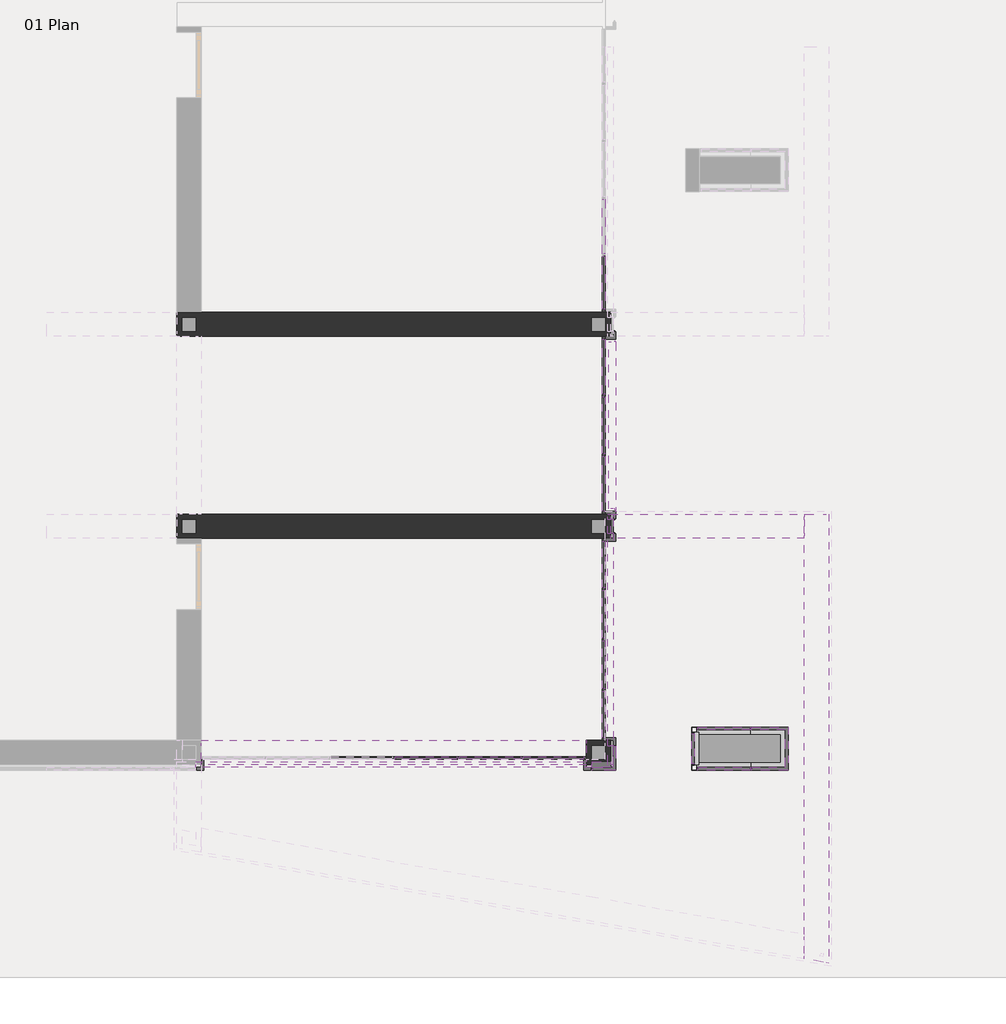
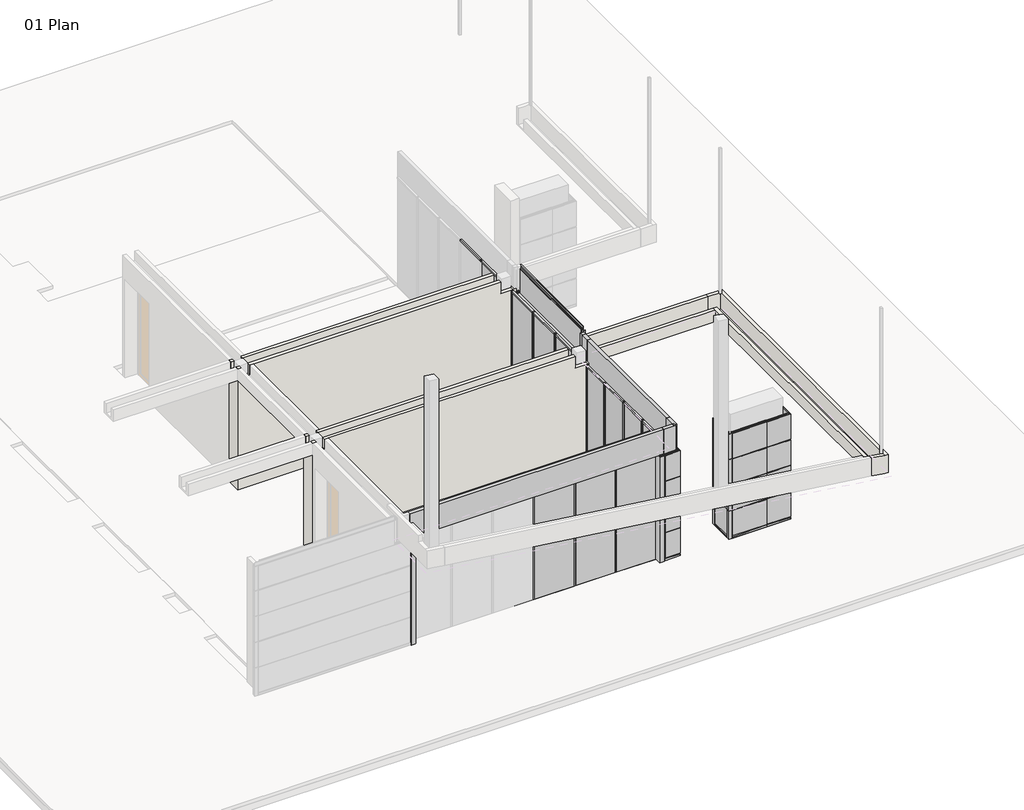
# One storey, part 2 of 5: 48 plates, 38 members, 6 walls.
"""IFC4 building model written with IfcOpenShell, lengths in millimetres."""

from ifc_helpers import new_model, si_unit, frame, origin, place, context, project, spatial, polyline, outline, extrude, faceted_brep, transform, mapped, element, save
from components import rectangular_mullion_f9ce9dc6, rectangular_mullion_d86abf8a, rectangular_mullion_e8d65c67, rectangular_mullion_c5e4a414, rectangular_mullion_c3e8b248, rectangular_mullion_bb8d6ff1, rectangular_mullion_e95caec2, rectangular_mullion_6a6b7c83, rectangular_mullion_8c2ecb36, rectangular_mullion_b7052393, rectangular_mullion_f1e0426e, rectangular_mullion_08edc9b5, rectangular_mullion_7d0be01b, rectangular_mullion_a8c58242, rectangular_mullion_3236e8af, rectangular_mullion_265d4001, rectangular_mullion_ccc8bb2c, plate_da8b7aa8, plate_97dfdc25, plate_eb0d2815, plate_6bd1128d, plate_987dd367, plate_21cbcbb2, plate_a826c487, plate_c5b51b30, plate_53742d8a, plate_d492e9c1, plate_1e91bede, plate_ff55eab8, plate_0f2c33d4, plate_e64e6de2, empty_system_panel_empty_786b6551, empty_system_panel_empty_7f93cfdc, empty_system_panel_empty_0363bcf5, empty_system_panel_empty_f8626ec1, empty_system_panel_empty_d218ae45, empty_system_panel_empty_38a7915e, empty_system_panel_empty_4003d573, empty_system_panel_empty_63036f14, system_panel_6dfe1f31, system_panel_c846f28c, system_panel_06a197ed, system_panel_921365fd, system_panel_770c4b70, system_panel_3dbd57ef, system_panel_7ee325bc

model = new_model("IFC4")

# Units and contexts
model_context = context("Model", 3, world=origin())
ifc_project = project(units=[si_unit("LENGTHUNIT", "METRE", prefix="MILLI")], contexts=[model_context])

# Site, building, storey
site = spatial("IfcSite", under=ifc_project)
building = spatial("IfcBuilding", under=site)
storey = spatial("IfcBuildingStorey", under=building, Name="01 Plan", Elevation=-4000.0)

# Members
placement = place(None, origin())
rectangular_mullion_shape = rectangular_mullion_f9ce9dc6(model_context)
element("IfcMember", 1, ObjectType="Rectangular Mullion : Mullion_Curtain Wall_Generic Showcase_50x50mm", at=placement, inside=storey, context=model_context, shape_type="MappedRepresentation", body=[
    mapped(rectangular_mullion_shape, transform((3950.6615063, -5279.4104565, -650.0), x_axis=(0.0, 0.0, 1.0), y_axis=(-1.0, 0.0, 0.0), z_axis=(0.0, -1.0, 0.0))),
])
rectangular_mullion_2_shape = rectangular_mullion_d86abf8a(model_context)
element("IfcMember", 2, ObjectType="Rectangular Mullion : Mullion_Curtain Wall_Generic Showcase_50x50mm", at=placement, inside=storey, context=model_context, shape_type="MappedRepresentation", body=[
    mapped(rectangular_mullion_2_shape, transform((3950.6615063, -1569.4104565, -650.0), x_axis=(0.0, 0.0, 1.0), y_axis=(-1.0, 0.0, 0.0), z_axis=(0.0, -1.0, 0.0))),
])
rectangular_mullion_3_shape = rectangular_mullion_e8d65c67(model_context)
element("IfcMember", 3, ObjectType="Rectangular Mullion : Mullion_Curtain Wall_Generic Showcase_50x50mm", at=placement, inside=storey, context=model_context, shape_type="MappedRepresentation", body=[
    mapped(rectangular_mullion_3_shape, transform((3950.6615063, -10604.4104565, -4100.0), x_axis=(0.0, -1.0, 0.0), y_axis=(-1.0, 0.0, 0.0), z_axis=(0.0, 0.0, -1.0))),
])
element("IfcMember", 4, ObjectType="Rectangular Mullion : Mullion_Curtain Wall_Generic Showcase_50x50mm", at=placement, inside=storey, context=model_context, shape_type="MappedRepresentation", body=[
    mapped(rectangular_mullion_3_shape, transform((3950.6615063, -6404.4104565, -4100.0), x_axis=(0.0, -1.0, 0.0), y_axis=(-1.0, 0.0, 0.0), z_axis=(0.0, 0.0, -1.0))),
])
element("IfcMember", 5, ObjectType="Rectangular Mullion : Mullion_Curtain Wall_Generic Showcase_50x50mm", at=placement, inside=storey, context=model_context, shape_type="MappedRepresentation", body=[
    mapped(rectangular_mullion_3_shape, transform((3950.6615063, -2654.4104565, -4100.0), x_axis=(0.0, -1.0, 0.0), y_axis=(-1.0, 0.0, 0.0), z_axis=(0.0, 0.0, -1.0))),
])
element("IfcMember", 6, ObjectType="Rectangular Mullion : Mullion_Curtain Wall_Generic Showcase_50x50mm", at=placement, inside=storey, context=model_context, shape_type="MappedRepresentation", body=[
    mapped(rectangular_mullion_3_shape, transform((3600.6615063, -10954.4104565, -650.0), x_axis=(1.0, 0.0, 0.0), y_axis=(0.0, 1.0, 0.0), z_axis=(0.0, 0.0, 1.0))),
])
element("IfcMember", 7, ObjectType="Rectangular Mullion : Mullion_Curtain Wall_Generic Showcase_50x50mm", at=placement, inside=storey, context=model_context, shape_type="MappedRepresentation", body=[
    mapped(rectangular_mullion_3_shape, transform((3950.6615063, -6854.4104565, -650.0), x_axis=(0.0, 1.0, 0.0), y_axis=(-1.0, 0.0, 0.0), z_axis=(0.0, 0.0, 1.0))),
])
element("IfcMember", 8, ObjectType="Rectangular Mullion : Mullion_Curtain Wall_Generic Showcase_50x50mm", at=placement, inside=storey, context=model_context, shape_type="MappedRepresentation", body=[
    mapped(rectangular_mullion_3_shape, transform((3950.6615063, -3104.4104565, -650.0), x_axis=(0.0, 1.0, 0.0), y_axis=(-1.0, 0.0, 0.0), z_axis=(0.0, 0.0, 1.0))),
])
rectangular_mullion_4_shape = rectangular_mullion_c5e4a414(model_context)
element("IfcMember", 9, ObjectType="Rectangular Mullion : Mullion_Curtain Wall_Generic Showcase_50x50mm", at=placement, inside=storey, context=model_context, shape_type="MappedRepresentation", body=[
    mapped(rectangular_mullion_4_shape, transform((3950.6615063, -7791.9104565, -4100.0), x_axis=(0.0, -1.0, 0.0), y_axis=(-1.0, 0.0, 0.0), z_axis=(0.0, 0.0, -1.0))),
])
element("IfcMember", 10, ObjectType="Rectangular Mullion : Mullion_Curtain Wall_Generic Showcase_50x50mm", at=placement, inside=storey, context=model_context, shape_type="MappedRepresentation", body=[
    mapped(rectangular_mullion_4_shape, transform((3950.6615063, -8729.4104565, -4100.0), x_axis=(0.0, -1.0, 0.0), y_axis=(-1.0, 0.0, 0.0), z_axis=(0.0, 0.0, -1.0))),
])
element("IfcMember", 11, ObjectType="Rectangular Mullion : Mullion_Curtain Wall_Generic Showcase_50x50mm", at=placement, inside=storey, context=model_context, shape_type="MappedRepresentation", body=[
    mapped(rectangular_mullion_4_shape, transform((3950.6615063, -9666.9104565, -4100.0), x_axis=(0.0, -1.0, 0.0), y_axis=(-1.0, 0.0, 0.0), z_axis=(0.0, 0.0, -1.0))),
])
element("IfcMember", 12, ObjectType="Rectangular Mullion : Mullion_Curtain Wall_Generic Showcase_50x50mm", at=placement, inside=storey, context=model_context, shape_type="MappedRepresentation", body=[
    mapped(rectangular_mullion_4_shape, transform((3950.6615063, -5304.4104565, -4100.0), x_axis=(0.0, -1.0, 0.0), y_axis=(-1.0, 0.0, 0.0), z_axis=(0.0, 0.0, -1.0))),
])
element("IfcMember", 13, ObjectType="Rectangular Mullion : Mullion_Curtain Wall_Generic Showcase_50x50mm", at=placement, inside=storey, context=model_context, shape_type="MappedRepresentation", body=[
    mapped(rectangular_mullion_4_shape, transform((3950.6615063, -4204.4104565, -4100.0), x_axis=(0.0, -1.0, 0.0), y_axis=(-1.0, 0.0, 0.0), z_axis=(0.0, 0.0, -1.0))),
])
element("IfcMember", 14, ObjectType="Rectangular Mullion : Mullion_Curtain Wall_Generic Showcase_50x50mm", at=placement, inside=storey, context=model_context, shape_type="MappedRepresentation", body=[
    mapped(rectangular_mullion_4_shape, transform((25.6615063, -10954.4104565, -4100.0), x_axis=(-1.0, 0.0, 0.0), y_axis=(0.0, 1.0, 0.0), z_axis=(0.0, 0.0, -1.0))),
])
element("IfcMember", 15, ObjectType="Rectangular Mullion : Mullion_Curtain Wall_Generic Showcase_50x50mm", at=placement, inside=storey, context=model_context, shape_type="MappedRepresentation", body=[
    mapped(rectangular_mullion_4_shape, transform((1217.328173, -10954.4104565, -4100.0), x_axis=(-1.0, 0.0, 0.0), y_axis=(0.0, 1.0, 0.0), z_axis=(0.0, 0.0, -1.0))),
])
element("IfcMember", 16, ObjectType="Rectangular Mullion : Mullion_Curtain Wall_Generic Showcase_50x50mm", at=placement, inside=storey, context=model_context, shape_type="MappedRepresentation", body=[
    mapped(rectangular_mullion_4_shape, transform((2408.9948396, -10954.4104565, -4100.0), x_axis=(-1.0, 0.0, 0.0), y_axis=(0.0, 1.0, 0.0), z_axis=(0.0, 0.0, -1.0))),
])
rectangular_mullion_5_shape = rectangular_mullion_c3e8b248(model_context)
element("IfcMember", 17, ObjectType="Rectangular Mullion : Mullion_Curtain Wall_Generic Showcase_50x100mm", at=placement, inside=storey, context=model_context, shape_type="MappedRepresentation", body=[
    mapped(rectangular_mullion_5_shape, transform((3950.6615063, -4229.4104565, -4100.0), x_axis=(0.0, 0.0, -1.0), y_axis=(-1.0, 0.0, 0.0), z_axis=(0.0, 1.0, 0.0))),
])
rectangular_mullion_6_shape = rectangular_mullion_bb8d6ff1(model_context)
element("IfcMember", 18, ObjectType="Rectangular Mullion : Mullion_Curtain Wall_Generic Showcase_50x50mm", at=placement, inside=storey, context=model_context, shape_type="MappedRepresentation", body=[
    mapped(rectangular_mullion_6_shape, transform((50.6615063, -10954.4104565, -650.0), x_axis=(0.0, 0.0, 1.0), y_axis=(0.0, 1.0, 0.0), z_axis=(-1.0, 0.0, 0.0))),
])
element("IfcMember", 19, ObjectType="Rectangular Mullion : Mullion_Curtain Wall_Generic Showcase_50x50mm", at=placement, inside=storey, context=model_context, shape_type="MappedRepresentation", body=[
    mapped(rectangular_mullion_6_shape, transform((1242.328173, -10954.4104565, -650.0), x_axis=(0.0, 0.0, 1.0), y_axis=(0.0, 1.0, 0.0), z_axis=(-1.0, 0.0, 0.0))),
])
rectangular_mullion_7_shape = rectangular_mullion_e95caec2(model_context)
element("IfcMember", 20, ObjectType="Rectangular Mullion : Mullion_Curtain Wall_Generic Showcase_50x100mm", at=placement, inside=storey, context=model_context, shape_type="MappedRepresentation", body=[
    mapped(rectangular_mullion_7_shape, transform((0.6615063, -10954.4104565, -4100.0), x_axis=(0.0, 0.0, -1.0), y_axis=(0.0, 1.0, 0.0), z_axis=(1.0, 0.0, 0.0))),
])
element("IfcMember", 21, ObjectType="Rectangular Mullion : Mullion_Curtain Wall_Generic Showcase_50x100mm", at=placement, inside=storey, context=model_context, shape_type="MappedRepresentation", body=[
    mapped(rectangular_mullion_7_shape, transform((1192.328173, -10954.4104565, -4100.0), x_axis=(0.0, 0.0, -1.0), y_axis=(0.0, 1.0, 0.0), z_axis=(1.0, 0.0, 0.0))),
])
element("IfcMember", 22, ObjectType="Rectangular Mullion : Mullion_Curtain Wall_Generic Showcase_50x100mm", at=placement, inside=storey, context=model_context, shape_type="MappedRepresentation", body=[
    mapped(rectangular_mullion_7_shape, transform((2383.9948396, -10954.4104565, -4100.0), x_axis=(0.0, 0.0, -1.0), y_axis=(0.0, 1.0, 0.0), z_axis=(1.0, 0.0, 0.0))),
])
rectangular_mullion_8_shape = rectangular_mullion_6a6b7c83(model_context)
element("IfcMember", 23, ObjectType="Rectangular Mullion : Mullion_Curtain Wall_Generic Showcase_50x50mm", at=placement, inside=storey, context=model_context, shape_type="MappedRepresentation", body=[
    mapped(rectangular_mullion_8_shape, transform((3950.6615063, -10554.4104565, -650.0), x_axis=(0.0, 0.0, 1.0), y_axis=(-1.0, 0.0, 0.0), z_axis=(0.0, -1.0, 0.0))),
])
element("IfcMember", 24, ObjectType="Rectangular Mullion : Mullion_Curtain Wall_Generic Showcase_50x50mm", at=placement, inside=storey, context=model_context, shape_type="MappedRepresentation", body=[
    mapped(rectangular_mullion_8_shape, transform((3950.6615063, -7766.9104565, -650.0), x_axis=(0.0, 0.0, 1.0), y_axis=(-1.0, 0.0, 0.0), z_axis=(0.0, -1.0, 0.0))),
])
rectangular_mullion_9_shape = rectangular_mullion_8c2ecb36(model_context)
element("IfcMember", 25, ObjectType="Rectangular Mullion : Mullion_Curtain Wall_Generic Showcase_50x50mm", at=placement, inside=storey, context=model_context, shape_type="MappedRepresentation", body=[
    mapped(rectangular_mullion_9_shape, transform((3950.6615063, -8704.4104565, -650.0), x_axis=(0.0, 0.0, 1.0), y_axis=(-1.0, 0.0, 0.0), z_axis=(0.0, -1.0, 0.0))),
])
element("IfcMember", 26, ObjectType="Rectangular Mullion : Mullion_Curtain Wall_Generic Showcase_50x50mm", at=placement, inside=storey, context=model_context, shape_type="MappedRepresentation", body=[
    mapped(rectangular_mullion_9_shape, transform((3950.6615063, -9641.9104565, -650.0), x_axis=(0.0, 0.0, 1.0), y_axis=(-1.0, 0.0, 0.0), z_axis=(0.0, -1.0, 0.0))),
])
rectangular_mullion_10_shape = rectangular_mullion_b7052393(model_context)
element("IfcMember", 27, ObjectType="Rectangular Mullion : Mullion_Curtain Wall_Generic Showcase_50x100mm", at=placement, inside=storey, context=model_context, shape_type="MappedRepresentation", body=[
    mapped(rectangular_mullion_10_shape, transform((3950.6615063, -6904.4104565, -4100.0), x_axis=(0.0, 0.0, -1.0), y_axis=(-1.0, 0.0, 0.0), z_axis=(0.0, 1.0, 0.0))),
])
element("IfcMember", 28, ObjectType="Rectangular Mullion : Mullion_Curtain Wall_Generic Showcase_50x100mm", at=placement, inside=storey, context=model_context, shape_type="MappedRepresentation", body=[
    mapped(rectangular_mullion_10_shape, transform((3950.6615063, -9691.9104565, -4100.0), x_axis=(0.0, 0.0, -1.0), y_axis=(-1.0, 0.0, 0.0), z_axis=(0.0, 1.0, 0.0))),
])
rectangular_mullion_11_shape = rectangular_mullion_f1e0426e(model_context)
element("IfcMember", 29, ObjectType="Rectangular Mullion : Mullion_Curtain Wall_Generic Showcase_50x100mm", at=placement, inside=storey, context=model_context, shape_type="MappedRepresentation", body=[
    mapped(rectangular_mullion_11_shape, transform((3950.6615063, -7816.9104565, -4100.0), x_axis=(0.0, 0.0, -1.0), y_axis=(-1.0, 0.0, 0.0), z_axis=(0.0, 1.0, 0.0))),
])
element("IfcMember", 30, ObjectType="Rectangular Mullion : Mullion_Curtain Wall_Generic Showcase_50x100mm", at=placement, inside=storey, context=model_context, shape_type="MappedRepresentation", body=[
    mapped(rectangular_mullion_11_shape, transform((3950.6615063, -8754.4104565, -4100.0), x_axis=(0.0, 0.0, -1.0), y_axis=(-1.0, 0.0, 0.0), z_axis=(0.0, 1.0, 0.0))),
])
rectangular_mullion_12_shape = rectangular_mullion_08edc9b5(model_context)
element("IfcMember", 31, ObjectType="Rectangular Mullion : Mullion_Curtain Wall_Generic Showcase_50x50mm", at=placement, inside=storey, context=model_context, shape_type="MappedRepresentation", body=[
    mapped(rectangular_mullion_12_shape, transform((2433.9948396, -10954.4104565, -650.0), x_axis=(0.0, 0.0, 1.0), y_axis=(0.0, 1.0, 0.0), z_axis=(-1.0, 0.0, 0.0))),
])
rectangular_mullion_13_shape = rectangular_mullion_7d0be01b(model_context)
element("IfcMember", 32, ObjectType="Rectangular Mullion : Mullion_Curtain Wall_Generic Showcase_50x100mm", at=placement, inside=storey, context=model_context, shape_type="MappedRepresentation", body=[
    mapped(rectangular_mullion_13_shape, transform((3550.6615063, -10954.4104565, -4100.0), x_axis=(0.0, 0.0, -1.0), y_axis=(0.0, 1.0, 0.0), z_axis=(1.0, 0.0, 0.0))),
])
rectangular_mullion_14_shape = rectangular_mullion_a8c58242(model_context)
element("IfcMember", 33, ObjectType="Rectangular Mullion : Mullion_Curtain Wall_Generic Showcase_50x50mm", at=placement, inside=storey, context=model_context, shape_type="MappedRepresentation", body=[
    mapped(rectangular_mullion_14_shape, transform((3950.6615063, -6354.4104565, -650.0), x_axis=(0.0, 0.0, 1.0), y_axis=(-1.0, 0.0, 0.0), z_axis=(0.0, -1.0, 0.0))),
])
element("IfcMember", 34, ObjectType="Rectangular Mullion : Mullion_Curtain Wall_Generic Showcase_50x50mm", at=placement, inside=storey, context=model_context, shape_type="MappedRepresentation", body=[
    mapped(rectangular_mullion_14_shape, transform((3950.6615063, -4179.4104565, -650.0), x_axis=(0.0, 0.0, 1.0), y_axis=(-1.0, 0.0, 0.0), z_axis=(0.0, -1.0, 0.0))),
])
rectangular_mullion_15_shape = rectangular_mullion_3236e8af(model_context)
element("IfcMember", 35, ObjectType="Rectangular Mullion : Mullion_Curtain Wall_Generic Showcase_50x100mm", at=placement, inside=storey, context=model_context, shape_type="MappedRepresentation", body=[
    mapped(rectangular_mullion_15_shape, transform((3950.6615063, -3154.4104565, -4100.0), x_axis=(0.0, 0.0, -1.0), y_axis=(-1.0, 0.0, 0.0), z_axis=(0.0, 1.0, 0.0))),
])
element("IfcMember", 36, ObjectType="Rectangular Mullion : Mullion_Curtain Wall_Generic Showcase_50x100mm", at=placement, inside=storey, context=model_context, shape_type="MappedRepresentation", body=[
    mapped(rectangular_mullion_15_shape, transform((3950.6615063, -5329.4104565, -4100.0), x_axis=(0.0, 0.0, -1.0), y_axis=(-1.0, 0.0, 0.0), z_axis=(0.0, 1.0, 0.0))),
])
rectangular_mullion_16_shape = rectangular_mullion_265d4001(model_context)
element("IfcMember", 37, ObjectType="Rectangular Mullion : Mullion_Curtain Wall_Generic Showcase_50x50mm", at=placement, inside=storey, context=model_context, shape_type="MappedRepresentation", body=[
    mapped(rectangular_mullion_16_shape, transform((3950.6615063, -2604.4104565, -650.0), x_axis=(0.0, 0.0, 1.0), y_axis=(-1.0, 0.0, 0.0), z_axis=(0.0, -1.0, 0.0))),
])
rectangular_mullion_17_shape = rectangular_mullion_ccc8bb2c(model_context)
element("IfcMember", 38, ObjectType="Rectangular Mullion : Mullion_Curtain Wall_Generic Showcase_50x100mm", at=placement, inside=storey, context=model_context, shape_type="MappedRepresentation", body=[
    mapped(rectangular_mullion_17_shape, transform((3950.6615063, -1619.4104565, -4100.0), x_axis=(0.0, 0.0, -1.0), y_axis=(-1.0, 0.0, 0.0), z_axis=(0.0, 1.0, 0.0))),
])

# Plates
plate_shape = plate_da8b7aa8(model_context)
element("IfcPlate", 39, ObjectType="Trimo_Qbiss Screen_Normal Panel-HORIZONTAL : HR - B", at=placement, inside=storey, context=model_context, shape_type="MappedRepresentation", body=[
    mapped(plate_shape, transform((4050.6615063, -4754.4104565, -748.2), x_axis=(0.0, -1.0, 0.0), y_axis=(1.0, 0.0, 0.0), z_axis=(0.0, 0.0, 1.0))),
])
plate_2_shape = plate_97dfdc25(model_context)
element("IfcPlate", 40, ObjectType="Trimo_Qbiss Screen_L Corner Panel-HORIZONTAL : HR - B", at=placement, inside=storey, context=model_context, shape_type="MappedRepresentation", body=[
    mapped(plate_2_shape, transform((4050.6615063, -10878.1604565, -2324.1), x_axis=(0.0, -1.0, 0.0), y_axis=(1.0, 0.0, 0.0), z_axis=(0.0, 0.0, 1.0))),
])
element("IfcPlate", 41, ObjectType="Trimo_Qbiss Screen_L Corner Panel-HORIZONTAL : HR - B", at=placement, inside=storey, context=model_context, shape_type="MappedRepresentation", body=[
    mapped(plate_2_shape, transform((4050.6615063, -10878.1604565, -3112.05), x_axis=(0.0, -1.0, 0.0), y_axis=(1.0, 0.0, 0.0), z_axis=(0.0, 0.0, 1.0))),
])
element("IfcPlate", 42, ObjectType="Trimo_Qbiss Screen_L Corner Panel-HORIZONTAL : HR - B", at=placement, inside=storey, context=model_context, shape_type="MappedRepresentation", body=[
    mapped(plate_2_shape, transform((4050.6615063, -10878.1604565, -1536.15), x_axis=(0.0, -1.0, 0.0), y_axis=(1.0, 0.0, 0.0), z_axis=(0.0, 0.0, 1.0))),
])
plate_3_shape = plate_eb0d2815(model_context)
element("IfcPlate", 43, ObjectType="Trimo_Qbiss Screen_L Corner Panel-HORIZONTAL : HR - B", at=placement, inside=storey, context=model_context, shape_type="MappedRepresentation", body=[
    mapped(plate_3_shape, transform((4050.6615063, -10878.1604565, -3900.0), x_axis=(0.0, -1.0, 0.0), y_axis=(1.0, 0.0, 0.0), z_axis=(0.0, 0.0, 1.0))),
])
plate_4_shape = plate_6bd1128d(model_context)
element("IfcPlate", 44, ObjectType="Trimo_Qbiss Screen_Normal Panel-HORIZONTAL : HR - B", at=placement, inside=storey, context=model_context, shape_type="MappedRepresentation", body=[
    mapped(plate_4_shape, transform((5700.6615063, -10756.9104565, -1536.15), x_axis=(0.0, 1.0, 0.0), y_axis=(-1.0, 0.0, 0.0), z_axis=(0.0, 0.0, 1.0))),
])
element("IfcPlate", 45, ObjectType="Trimo_Qbiss Screen_Normal Panel-HORIZONTAL : HR - B", at=placement, inside=storey, context=model_context, shape_type="MappedRepresentation", body=[
    mapped(plate_4_shape, transform((5700.6615063, -10756.9104565, -2324.1), x_axis=(0.0, 1.0, 0.0), y_axis=(-1.0, 0.0, 0.0), z_axis=(0.0, 0.0, 1.0))),
])
element("IfcPlate", 46, ObjectType="Trimo_Qbiss Screen_Normal Panel-HORIZONTAL : HR - B", at=placement, inside=storey, context=model_context, shape_type="MappedRepresentation", body=[
    mapped(plate_4_shape, transform((5700.6615063, -10756.9104565, -3112.05), x_axis=(0.0, 1.0, 0.0), y_axis=(-1.0, 0.0, 0.0), z_axis=(0.0, 0.0, 1.0))),
])
plate_5_shape = plate_987dd367(model_context)
element("IfcPlate", 47, ObjectType="Trimo_Qbiss Screen_Normal Panel-HORIZONTAL : HR - B", at=placement, inside=storey, context=model_context, shape_type="MappedRepresentation", body=[
    mapped(plate_5_shape, transform((6179.4115063, -10504.4104565, -2324.1), x_axis=(1.0, 0.0, 0.0), y_axis=(0.0, 1.0, 0.0), z_axis=(0.0, 0.0, 1.0))),
])
element("IfcPlate", 48, ObjectType="Trimo_Qbiss Screen_Normal Panel-HORIZONTAL : HR - B", at=placement, inside=storey, context=model_context, shape_type="MappedRepresentation", body=[
    mapped(plate_5_shape, transform((6179.4115063, -10504.4104565, -1536.15), x_axis=(1.0, 0.0, 0.0), y_axis=(0.0, 1.0, 0.0), z_axis=(0.0, 0.0, 1.0))),
])
element("IfcPlate", 49, ObjectType="Trimo_Qbiss Screen_Normal Panel-HORIZONTAL : HR - B", at=placement, inside=storey, context=model_context, shape_type="MappedRepresentation", body=[
    mapped(plate_5_shape, transform((6179.4115063, -10504.4104565, -3112.05), x_axis=(1.0, 0.0, 0.0), y_axis=(0.0, 1.0, 0.0), z_axis=(0.0, 0.0, 1.0))),
])
plate_6_shape = plate_21cbcbb2(model_context)
element("IfcPlate", 50, ObjectType="Trimo_Qbiss Screen_Normal Panel-HORIZONTAL : HR - B", at=placement, inside=storey, context=model_context, shape_type="MappedRepresentation", body=[
    mapped(plate_6_shape, transform((6179.4115063, -10504.4104565, -3900.0), x_axis=(1.0, 0.0, 0.0), y_axis=(0.0, 1.0, 0.0), z_axis=(0.0, 0.0, 1.0))),
])
plate_7_shape = plate_a826c487(model_context)
element("IfcPlate", 51, ObjectType="Trimo_Qbiss Screen_Normal Panel-HORIZONTAL : HR - B", at=placement, inside=storey, context=model_context, shape_type="MappedRepresentation", body=[
    mapped(plate_7_shape, transform((5700.6615063, -10756.9104565, -3900.0), x_axis=(0.0, 1.0, 0.0), y_axis=(-1.0, 0.0, 0.0), z_axis=(0.0, 0.0, 1.0))),
])
plate_8_shape = plate_c5b51b30(model_context)
element("IfcPlate", 52, ObjectType="Trimo_Qbiss Screen_Normal Panel-HORIZONTAL : HR - B", at=placement, inside=storey, context=model_context, shape_type="MappedRepresentation", body=[
    mapped(plate_8_shape, transform((6179.4115063, -11009.4104565, -3900.0), x_axis=(-1.0, 0.0, 0.0), y_axis=(0.0, -1.0, 0.0), z_axis=(0.0, 0.0, 1.0))),
])
plate_9_shape = plate_53742d8a(model_context)
element("IfcPlate", 53, ObjectType="Trimo_Qbiss Screen_Normal Panel-HORIZONTAL : HR - B", at=placement, inside=storey, context=model_context, shape_type="MappedRepresentation", body=[
    mapped(plate_9_shape, transform((6179.4115063, -11009.4104565, -2324.1), x_axis=(-1.0, 0.0, 0.0), y_axis=(0.0, -1.0, 0.0), z_axis=(0.0, 0.0, 1.0))),
])
element("IfcPlate", 54, ObjectType="Trimo_Qbiss Screen_Normal Panel-HORIZONTAL : HR - B", at=placement, inside=storey, context=model_context, shape_type="MappedRepresentation", body=[
    mapped(plate_9_shape, transform((6179.4115063, -11009.4104565, -1536.15), x_axis=(-1.0, 0.0, 0.0), y_axis=(0.0, -1.0, 0.0), z_axis=(0.0, 0.0, 1.0))),
])
element("IfcPlate", 55, ObjectType="Trimo_Qbiss Screen_Normal Panel-HORIZONTAL : HR - B", at=placement, inside=storey, context=model_context, shape_type="MappedRepresentation", body=[
    mapped(plate_9_shape, transform((6179.4115063, -11009.4104565, -3112.05), x_axis=(-1.0, 0.0, 0.0), y_axis=(0.0, -1.0, 0.0), z_axis=(0.0, 0.0, 1.0))),
])
plate_10_shape = plate_d492e9c1(model_context)
element("IfcPlate", 56, ObjectType="Trimo_Qbiss Screen_Wall Opening Trims-HORIZONTAL : HR - B", at=placement, inside=storey, context=model_context, shape_type="MappedRepresentation", body=[
    mapped(plate_10_shape, transform((25.6615063, -11054.4104565, -4000.0), x_axis=(-1.0, 0.0, 0.0), y_axis=(0.0, -1.0, 0.0), z_axis=(0.0, 0.0, 1.0))),
])
plate_11_shape = plate_1e91bede(model_context)
element("IfcPlate", 57, ObjectType="Trimo_Qbiss Screen_Wall Opening Trims-HORIZONTAL : HR - B", at=placement, inside=storey, context=model_context, shape_type="MappedRepresentation", body=[
    mapped(plate_11_shape, transform((4050.6615063, -4754.4104565, -4000.0), x_axis=(0.0, -1.0, 0.0), y_axis=(1.0, 0.0, 0.0), z_axis=(0.0, 0.0, 1.0))),
])
plate_12_shape = plate_ff55eab8(model_context)
element("IfcPlate", 58, ObjectType="Trimo_Qbiss Screen_Wall Opening Trims-HORIZONTAL : HR - B", at=placement, inside=storey, context=model_context, shape_type="MappedRepresentation", body=[
    mapped(plate_12_shape, transform((4050.6615063, -8729.4104565, -4000.0), x_axis=(0.0, -1.0, 0.0), y_axis=(1.0, 0.0, 0.0), z_axis=(0.0, 0.0, 1.0))),
])
plate_13_shape = plate_0f2c33d4(model_context)
element("IfcPlate", 59, ObjectType="Trimo_Qbiss Screen_U Corner Panel-HORIZONTAL : HR - B", at=placement, inside=storey, context=model_context, shape_type="MappedRepresentation", body=[
    mapped(plate_13_shape, transform((6970.6615063, -10504.4104565, -3900.0), x_axis=(1.0, 0.0, 0.0), y_axis=(0.0, 1.0, 0.0), z_axis=(0.0, 0.0, 1.0))),
])
plate_14_shape = plate_e64e6de2(model_context)
element("IfcPlate", 60, ObjectType="Trimo_Qbiss Screen_U Corner Panel-HORIZONTAL : HR - B", at=placement, inside=storey, context=model_context, shape_type="MappedRepresentation", body=[
    mapped(plate_14_shape, transform((6970.6615063, -10504.4104565, -1536.15), x_axis=(1.0, 0.0, 0.0), y_axis=(0.0, 1.0, 0.0), z_axis=(0.0, 0.0, 1.0))),
])
element("IfcPlate", 61, ObjectType="Trimo_Qbiss Screen_U Corner Panel-HORIZONTAL : HR - B", at=placement, inside=storey, context=model_context, shape_type="MappedRepresentation", body=[
    mapped(plate_14_shape, transform((6970.6615063, -10504.4104565, -2324.1), x_axis=(1.0, 0.0, 0.0), y_axis=(0.0, 1.0, 0.0), z_axis=(0.0, 0.0, 1.0))),
])
element("IfcPlate", 62, ObjectType="Trimo_Qbiss Screen_U Corner Panel-HORIZONTAL : HR - B", at=placement, inside=storey, context=model_context, shape_type="MappedRepresentation", body=[
    mapped(plate_14_shape, transform((6970.6615063, -10504.4104565, -3112.05), x_axis=(1.0, 0.0, 0.0), y_axis=(0.0, 1.0, 0.0), z_axis=(0.0, 0.0, 1.0))),
])
empty_system_panel_empty_shape = empty_system_panel_empty_786b6551(model_context)
element("IfcPlate", 63, ObjectType="Empty System Panel : Empty", at=placement, inside=storey, context=model_context, shape_type="MappedRepresentation", body=[
    mapped(empty_system_panel_empty_shape, transform((25.6615063, -11054.4104565, -748.2), x_axis=(-1.0, 0.0, 0.0), y_axis=(0.0, -1.0, 0.0), z_axis=(0.0, 0.0, 1.0))),
])
empty_system_panel_empty_2_shape = empty_system_panel_empty_7f93cfdc(model_context)
element("IfcPlate", 64, ObjectType="Empty System Panel : Empty", at=placement, inside=storey, context=model_context, shape_type="MappedRepresentation", body=[
    mapped(empty_system_panel_empty_2_shape, transform((4050.6615063, -10878.1604565, -748.2), x_axis=(0.0, -1.0, 0.0), y_axis=(1.0, 0.0, 0.0), z_axis=(0.0, 0.0, 1.0))),
])
element("IfcPlate", 65, ObjectType="Empty System Panel : Empty", at=placement, inside=storey, context=model_context, shape_type="MappedRepresentation", body=[
    mapped(empty_system_panel_empty_2_shape, transform((3874.4115063, -11054.4104565, -748.2), x_axis=(-1.0, 0.0, 0.0), y_axis=(0.0, -1.0, 0.0), z_axis=(0.0, 0.0, 1.0))),
])
empty_system_panel_empty_3_shape = empty_system_panel_empty_0363bcf5(model_context)
element("IfcPlate", 66, ObjectType="Empty System Panel : Empty", at=placement, inside=storey, context=model_context, shape_type="MappedRepresentation", body=[
    mapped(empty_system_panel_empty_3_shape, transform((4050.6615063, -6629.4104565, -748.2), x_axis=(0.0, -1.0, 0.0), y_axis=(1.0, 0.0, 0.0), z_axis=(0.0, 0.0, 1.0))),
])
empty_system_panel_empty_4_shape = empty_system_panel_empty_f8626ec1(model_context)
element("IfcPlate", 67, ObjectType="Empty System Panel : Empty", at=placement, inside=storey, context=model_context, shape_type="MappedRepresentation", body=[
    mapped(empty_system_panel_empty_4_shape, transform((4050.6615063, -6453.1604565, -748.2), x_axis=(0.0, -1.0, 0.0), y_axis=(1.0, 0.0, 0.0), z_axis=(0.0, 0.0, 1.0))),
])
empty_system_panel_empty_5_shape = empty_system_panel_empty_d218ae45(model_context)
element("IfcPlate", 68, ObjectType="Empty System Panel : Empty", at=placement, inside=storey, context=model_context, shape_type="MappedRepresentation", body=[
    mapped(empty_system_panel_empty_5_shape, transform((4050.6615063, -8729.4104565, -748.2), x_axis=(0.0, -1.0, 0.0), y_axis=(1.0, 0.0, 0.0), z_axis=(0.0, 0.0, 1.0))),
])
empty_system_panel_empty_6_shape = empty_system_panel_empty_38a7915e(model_context)
element("IfcPlate", 69, ObjectType="Empty System Panel : Empty", at=placement, inside=storey, context=model_context, shape_type="MappedRepresentation", body=[
    mapped(empty_system_panel_empty_6_shape, transform((3874.4115063, -11054.4104565, -1536.15), x_axis=(-1.0, 0.0, 0.0), y_axis=(0.0, -1.0, 0.0), z_axis=(0.0, 0.0, 1.0))),
])
element("IfcPlate", 70, ObjectType="Empty System Panel : Empty", at=placement, inside=storey, context=model_context, shape_type="MappedRepresentation", body=[
    mapped(empty_system_panel_empty_6_shape, transform((3874.4115063, -11054.4104565, -2324.1), x_axis=(-1.0, 0.0, 0.0), y_axis=(0.0, -1.0, 0.0), z_axis=(0.0, 0.0, 1.0))),
])
element("IfcPlate", 71, ObjectType="Empty System Panel : Empty", at=placement, inside=storey, context=model_context, shape_type="MappedRepresentation", body=[
    mapped(empty_system_panel_empty_6_shape, transform((3874.4115063, -11054.4104565, -3112.05), x_axis=(-1.0, 0.0, 0.0), y_axis=(0.0, -1.0, 0.0), z_axis=(0.0, 0.0, 1.0))),
])
element("IfcPlate", 72, ObjectType="Empty System Panel : Empty", at=placement, inside=storey, context=model_context, shape_type="MappedRepresentation", body=[
    mapped(empty_system_panel_empty_6_shape, transform((3874.4115063, -11054.4104565, -3900.0), x_axis=(-1.0, 0.0, 0.0), y_axis=(0.0, -1.0, 0.0), z_axis=(0.0, 0.0, 1.0))),
])
empty_system_panel_empty_7_shape = empty_system_panel_empty_4003d573(model_context)
element("IfcPlate", 73, ObjectType="Empty System Panel : Empty", at=placement, inside=storey, context=model_context, shape_type="MappedRepresentation", body=[
    mapped(empty_system_panel_empty_7_shape, transform((3874.4115063, -11054.4104565, -4000.0), x_axis=(-1.0, 0.0, 0.0), y_axis=(0.0, -1.0, 0.0), z_axis=(0.0, 0.0, 1.0))),
])
element("IfcPlate", 74, ObjectType="Empty System Panel : Empty", at=placement, inside=storey, context=model_context, shape_type="MappedRepresentation", body=[
    mapped(empty_system_panel_empty_7_shape, transform((4050.6615063, -10878.1604565, -4000.0), x_axis=(0.0, -1.0, 0.0), y_axis=(1.0, 0.0, 0.0), z_axis=(0.0, 0.0, 1.0))),
])
empty_system_panel_empty_8_shape = empty_system_panel_empty_63036f14(model_context)
element("IfcPlate", 75, ObjectType="Empty System Panel : Empty", at=placement, inside=storey, context=model_context, shape_type="MappedRepresentation", body=[
    mapped(empty_system_panel_empty_8_shape, transform((4050.6615063, -6629.4104565, -4000.0), x_axis=(0.0, -1.0, 0.0), y_axis=(1.0, 0.0, 0.0), z_axis=(0.0, 0.0, 1.0))),
])
system_panel_shape = system_panel_6dfe1f31(model_context)
element("IfcPlate", 76, ObjectType="System Panel : Panel_Glazed_Generic Showcase_30mm", at=placement, inside=storey, context=model_context, shape_type="MappedRepresentation", body=[
    mapped(system_panel_shape, transform((3950.6615063, -4754.4104565, -4000.0), x_axis=(0.0, -1.0, 0.0), y_axis=(1.0, 0.0, 0.0), z_axis=(0.0, 0.0, 1.0))),
])
system_panel_2_shape = system_panel_c846f28c(model_context)
element("IfcPlate", 77, ObjectType="System Panel : Panel_Glazed_Generic Showcase_30mm", at=placement, inside=storey, context=model_context, shape_type="MappedRepresentation", body=[
    mapped(system_panel_2_shape, transform((621.4948396, -10954.4104565, -4000.0), x_axis=(-1.0, 0.0, 0.0), y_axis=(0.0, -1.0, 0.0), z_axis=(0.0, 0.0, 1.0))),
])
element("IfcPlate", 78, ObjectType="System Panel : Panel_Glazed_Generic Showcase_30mm", at=placement, inside=storey, context=model_context, shape_type="MappedRepresentation", body=[
    mapped(system_panel_2_shape, transform((1813.1615063, -10954.4104565, -4000.0), x_axis=(-1.0, 0.0, 0.0), y_axis=(0.0, -1.0, 0.0), z_axis=(0.0, 0.0, 1.0))),
])
system_panel_3_shape = system_panel_06a197ed(model_context)
element("IfcPlate", 79, ObjectType="System Panel : Panel_Glazed_Generic Showcase_30mm", at=placement, inside=storey, context=model_context, shape_type="MappedRepresentation", body=[
    mapped(system_panel_3_shape, transform((3950.6615063, -10123.1604565, -4000.0), x_axis=(0.0, -1.0, 0.0), y_axis=(1.0, 0.0, 0.0), z_axis=(0.0, 0.0, 1.0))),
])
element("IfcPlate", 80, ObjectType="System Panel : Panel_Glazed_Generic Showcase_30mm", at=placement, inside=storey, context=model_context, shape_type="MappedRepresentation", body=[
    mapped(system_panel_3_shape, transform((3950.6615063, -7335.6604565, -4000.0), x_axis=(0.0, -1.0, 0.0), y_axis=(1.0, 0.0, 0.0), z_axis=(0.0, 0.0, 1.0))),
])
system_panel_4_shape = system_panel_921365fd(model_context)
element("IfcPlate", 81, ObjectType="System Panel : Panel_Glazed_Generic Showcase_30mm", at=placement, inside=storey, context=model_context, shape_type="MappedRepresentation", body=[
    mapped(system_panel_4_shape, transform((3950.6615063, -9198.1604565, -4000.0), x_axis=(0.0, -1.0, 0.0), y_axis=(1.0, 0.0, 0.0), z_axis=(0.0, 0.0, 1.0))),
])
element("IfcPlate", 82, ObjectType="System Panel : Panel_Glazed_Generic Showcase_30mm", at=placement, inside=storey, context=model_context, shape_type="MappedRepresentation", body=[
    mapped(system_panel_4_shape, transform((3950.6615063, -8260.6604565, -4000.0), x_axis=(0.0, -1.0, 0.0), y_axis=(1.0, 0.0, 0.0), z_axis=(0.0, 0.0, 1.0))),
])
system_panel_5_shape = system_panel_770c4b70(model_context)
element("IfcPlate", 83, ObjectType="System Panel : Panel_Glazed_Generic Showcase_30mm", at=placement, inside=storey, context=model_context, shape_type="MappedRepresentation", body=[
    mapped(system_panel_5_shape, transform((2992.328173, -10954.4104565, -4000.0), x_axis=(-1.0, 0.0, 0.0), y_axis=(0.0, -1.0, 0.0), z_axis=(0.0, 0.0, 1.0))),
])
system_panel_6_shape = system_panel_3dbd57ef(model_context)
element("IfcPlate", 84, ObjectType="System Panel : Panel_Glazed_Generic Showcase_30mm", at=placement, inside=storey, context=model_context, shape_type="MappedRepresentation", body=[
    mapped(system_panel_6_shape, transform((3950.6615063, -5841.9104565, -4000.0), x_axis=(0.0, -1.0, 0.0), y_axis=(1.0, 0.0, 0.0), z_axis=(0.0, 0.0, 1.0))),
])
element("IfcPlate", 85, ObjectType="System Panel : Panel_Glazed_Generic Showcase_30mm", at=placement, inside=storey, context=model_context, shape_type="MappedRepresentation", body=[
    mapped(system_panel_6_shape, transform((3950.6615063, -3666.9104565, -4000.0), x_axis=(0.0, -1.0, 0.0), y_axis=(1.0, 0.0, 0.0), z_axis=(0.0, 0.0, 1.0))),
])
system_panel_7_shape = system_panel_7ee325bc(model_context)
element("IfcPlate", 86, ObjectType="System Panel : Panel_Glazed_Generic Showcase_30mm", at=placement, inside=storey, context=model_context, shape_type="MappedRepresentation", body=[
    mapped(system_panel_7_shape, transform((3950.6615063, -2111.9104565, -4000.0), x_axis=(0.0, -1.0, 0.0), y_axis=(1.0, 0.0, 0.0), z_axis=(0.0, 0.0, 1.0))),
])

# Walls
element("IfcWall", 87, ObjectType="Wall_Interior_Generic Showcase_450mm", at=placement, inside=storey, context=model_context, shape_type="Brep", body=[
    faceted_brep([(-3649.3384937, -3104.4104565, -600.0), (-3899.3384937, -3104.4104565, -600.0), (-3899.3384937, -3104.4104565, -300.0), (-3999.3384937, -3104.4104565, -300.0), (-3999.3384937, -3104.4104565, -650.0), (-3999.3384937, -3104.4104565, -4000.0), (-3999.3384937, -3104.4104565, -4100.0), (3900.6615063, -3104.4104565, -4100.0), (4050.6615063, -3104.4104565, -4100.0), (4050.6615063, -3104.4104565, -650.0), (3950.6615063, -3104.4104565, -650.0), (3600.6615063, -3104.4104565, -650.0), (3600.6615063, -3104.4104565, -300.0), (-3549.3384937, -3104.4104565, -300.0), (-3649.3384937, -3104.4104565, -300.0), (4050.6615063, -2654.4104565, -4100.0), (-3549.3384937, -2654.4104565, -4100.0), (-3999.3384937, -2654.4104565, -4100.0), (-3999.3384937, -2654.4104565, -4000.0), (-3999.3384937, -2654.4104565, -650.0), (-3999.3384937, -2654.4104565, -300.0), (-3899.3384937, -2654.4104565, -300.0), (-3899.3384937, -2654.4104565, -600.0), (-3649.3384937, -2654.4104565, -600.0), (-3649.3384937, -2654.4104565, -300.0), (-3549.3384937, -2654.4104565, -300.0), (3600.6615063, -2654.4104565, -300.0), (3600.6615063, -2654.4104565, -650.0), (3950.6615063, -2654.4104565, -650.0), (4050.6615063, -2654.4104565, -650.0), (-3649.3384937, -3004.4104565, -4100.0), (-3649.3384937, -2754.4104565, -4100.0), (-3899.3384937, -2754.4104565, -4100.0), (-3899.3384937, -3004.4104565, -4100.0), (3950.6615063, -3004.4104565, -4100.0), (3950.6615063, -2754.4104565, -4100.0), (3700.6615063, -2754.4104565, -4100.0), (3700.6615063, -3004.4104565, -4100.0), (-3899.3384937, -2754.4104565, -300.0), (-3899.3384937, -2754.4104565, -600.0), (-3899.3384937, -3004.4104565, -600.0), (-3899.3384937, -3004.4104565, -300.0), (-3649.3384937, -2754.4104565, -600.0), (-3649.3384937, -3004.4104565, -600.0), (3600.6615063, -3004.4104565, -600.0), (3600.6615063, -2754.4104565, -600.0), (-3999.3384937, -2754.4104565, -600.0), (-3999.3384937, -3004.4104565, -600.0), (-3649.3384937, -2754.4104565, -300.0), (-3649.3384937, -3004.4104565, -300.0), (-3999.3384937, -3004.4104565, -300.0), (3600.6615063, -3004.4104565, -300.0), (-3999.3384937, -2754.4104565, -300.0), (3600.6615063, -2754.4104565, -300.0), (3950.6615063, -3004.4104565, -650.0), (3950.6615063, -2754.4104565, -650.0), (3700.6615063, -3004.4104565, -650.0), (3700.6615063, -2754.4104565, -650.0)], [[[0, 1, 2, 3, 4, 5, 6, 7, 8, 9, 10, 11, 12, 13, 14]], [[15, 16, 17, 18, 19, 20, 21, 22, 23, 24, 25, 26, 27, 28, 29]], [[17, 16, 15, 8, 7, 6], [30, 31, 32, 33], [34, 35, 36, 37]], [[8, 15, 29, 9]], [[22, 21, 38, 39]], [[2, 1, 40, 41]], [[23, 22, 39, 42]], [[1, 0, 43, 40]], [[42, 43, 44, 45]], [[40, 39, 46, 47]], [[24, 23, 42, 48]], [[0, 14, 49, 43]], [[41, 40, 47, 50]], [[43, 49, 51, 44]], [[39, 38, 52, 46]], [[48, 42, 45, 53]], [[30, 43, 42, 31]], [[33, 40, 43, 30]], [[40, 33, 32, 39]], [[39, 32, 31, 42]], [[17, 6, 5, 4, 3, 50, 47, 46, 52, 20, 19, 18]], [[11, 27, 26, 53, 45, 44, 51, 12]], [[21, 20, 52, 38]], [[26, 25, 24, 48, 53]], [[14, 13, 12, 51, 49]], [[3, 2, 41, 50]], [[34, 54, 55, 35]], [[54, 34, 37, 56]], [[56, 37, 36, 57]], [[57, 36, 35, 55]], [[27, 11, 10, 54, 56, 57, 55, 28]], [[10, 9, 29, 28, 55, 54]]]),
])
element("IfcWall", 88, ObjectType="Wall_Interior_Generic Showcase_450mm", at=placement, inside=storey, context=model_context, shape_type="Brep", body=[
    faceted_brep([(-3899.3384937, -6404.4104565, -600.0), (-3649.3384937, -6404.4104565, -600.0), (-3649.3384937, -6404.4104565, -300.0), (-3549.3384937, -6404.4104565, -300.0), (3600.6615063, -6404.4104565, -300.0), (3600.6615063, -6404.4104565, -650.0), (3950.6615063, -6404.4104565, -650.0), (4050.6615063, -6404.4104565, -650.0), (4050.6615063, -6404.4104565, -4100.0), (3900.6615063, -6404.4104565, -4100.0), (-3999.3384937, -6404.4104565, -4100.0), (-3999.3384937, -6404.4104565, -4000.0), (-3999.3384937, -6404.4104565, -650.0), (-3999.3384937, -6404.4104565, -300.0), (-3899.3384937, -6404.4104565, -300.0), (-3999.3384937, -6854.4104565, -4100.0), (-3549.3384937, -6854.4104565, -4100.0), (4050.6615063, -6854.4104565, -4100.0), (4050.6615063, -6854.4104565, -650.0), (3950.6615063, -6854.4104565, -650.0), (3600.6615063, -6854.4104565, -650.0), (3600.6615063, -6854.4104565, -300.0), (-3549.3384937, -6854.4104565, -300.0), (-3649.3384937, -6854.4104565, -300.0), (-3649.3384937, -6854.4104565, -600.0), (-3899.3384937, -6854.4104565, -600.0), (-3899.3384937, -6854.4104565, -300.0), (-3999.3384937, -6854.4104565, -300.0), (-3999.3384937, -6854.4104565, -650.0), (-3999.3384937, -6854.4104565, -4000.0), (-3649.3384937, -6754.4104565, -4100.0), (-3649.3384937, -6504.4104565, -4100.0), (-3899.3384937, -6504.4104565, -4100.0), (-3899.3384937, -6754.4104565, -4100.0), (3950.6615063, -6754.4104565, -4100.0), (3950.6615063, -6504.4104565, -4100.0), (3700.6615063, -6504.4104565, -4100.0), (3700.6615063, -6754.4104565, -4100.0), (-3899.3384937, -6754.4104565, -300.0), (-3899.3384937, -6754.4104565, -600.0), (-3999.3384937, -6754.4104565, -600.0), (-3999.3384937, -6754.4104565, -300.0), (-3649.3384937, -6754.4104565, -600.0), (-3649.3384937, -6754.4104565, -300.0), (3600.6615063, -6754.4104565, -300.0), (3600.6615063, -6754.4104565, -600.0), (-3649.3384937, -6504.4104565, -600.0), (3600.6615063, -6504.4104565, -600.0), (-3899.3384937, -6504.4104565, -600.0), (-3999.3384937, -6504.4104565, -600.0), (-3899.3384937, -6504.4104565, -300.0), (-3999.3384937, -6504.4104565, -300.0), (-3649.3384937, -6504.4104565, -300.0), (3600.6615063, -6504.4104565, -300.0), (3950.6615063, -6754.4104565, -650.0), (3950.6615063, -6504.4104565, -650.0), (3700.6615063, -6754.4104565, -650.0), (3700.6615063, -6504.4104565, -650.0)], [[[0, 1, 2, 3, 4, 5, 6, 7, 8, 9, 10, 11, 12, 13, 14]], [[15, 16, 17, 18, 19, 20, 21, 22, 23, 24, 25, 26, 27, 28, 29]], [[17, 16, 15, 10, 9, 8], [30, 31, 32, 33], [34, 35, 36, 37]], [[17, 8, 7, 18]], [[38, 39, 40, 41]], [[42, 43, 44, 45]], [[25, 24, 42, 39]], [[46, 42, 45, 47]], [[39, 48, 49, 40]], [[1, 0, 48, 46]], [[48, 50, 51, 49]], [[52, 46, 47, 53]], [[26, 25, 39, 38]], [[0, 14, 50, 48]], [[24, 23, 43, 42]], [[2, 1, 46, 52]], [[30, 42, 46, 31]], [[33, 39, 42, 30]], [[39, 33, 32, 48]], [[48, 32, 31, 46]], [[35, 34, 54, 55]], [[34, 37, 56, 54]], [[37, 36, 57, 56]], [[36, 35, 55, 57]], [[10, 15, 29, 28, 27, 41, 40, 49, 51, 13, 12, 11]], [[5, 4, 53, 47, 45, 44, 21, 20]], [[23, 22, 21, 44, 43]], [[27, 26, 38, 41]], [[14, 13, 51, 50]], [[4, 3, 2, 52, 53]], [[5, 20, 19, 54, 56, 57, 55, 6]], [[6, 55, 54, 19, 18, 7]]]),
])
element("IfcWall", 89, ObjectType="Wall_Exterior_Generic Showcase_450mm", at=placement, inside=storey, context=model_context, shape_type="Brep", body=[
    faceted_brep([(7650.6615063, -6404.4104565, -650.0), (7650.6615063, -6854.4104565, -650.0), (7650.6615063, -14201.6778064, -650.0), (7650.6615063, -14658.6197818, -650.0), (7650.6615063, -14658.6197818, -100.0), (7650.6615063, -14557.0771206, -100.0), (7650.6615063, -14557.0771206, -600.0), (7650.6615063, -14303.2204676, -600.0), (7650.6615063, -14303.2204676, -300.0), (7650.6615063, -14201.6778064, -300.0), (7650.6615063, -6854.4104565, -300.0), (7650.6615063, -6754.4104565, -300.0), (7650.6615063, -6754.4104565, -600.0), (7650.6615063, -6504.4104565, -600.0), (7650.6615063, -6504.4104565, -300.0), (7650.6615063, -6504.4104565, -100.0), (7650.6615063, -6404.4104565, -100.0), (8100.6615063, -14737.9669231, -100.0), (8100.6615063, -14737.9669231, -650.0), (8100.6615063, -6404.4104565, -650.0), (8100.6615063, -6404.4104565, -100.0), (8000.6615063, -14720.334225, -650.0), (8000.6615063, -14720.334225, -100.0), (7750.6615063, -14320.8531657, -600.0), (7750.6615063, -6754.4104565, -600.0), (7750.6615063, -6754.4104565, -300.0), (7750.6615063, -14320.8531657, -300.0), (8000.6615063, -6504.4104565, -600.0), (8000.6615063, -6754.4104565, -600.0), (8000.6615063, -14574.7098186, -600.0), (8000.6615063, -14574.7098186, -300.0), (8000.6615063, -14618.7915638, -300.0), (8000.6615063, -14618.7915638, -100.0), (8000.6615063, -6504.4104565, -100.0), (8000.6615063, -6504.4104565, -300.0), (7750.6615063, -14574.7098186, -300.0), (7750.6615063, -14574.7098186, -600.0), (8000.6615063, -6404.4104565, -100.0), (8000.6615063, -6404.4104565, -650.0)], [[[0, 1, 2, 3, 4, 5, 6, 7, 8, 9, 10, 11, 12, 13, 14, 15, 16]], [[17, 18, 19, 20]], [[4, 3, 21, 18, 17, 22]], [[23, 24, 25, 26]], [[27, 28, 29, 30, 31, 32, 33, 34]], [[32, 31, 35, 36, 6, 5]], [[7, 23, 26, 8]], [[24, 12, 11, 25]], [[0, 16, 37, 20, 19, 38]], [[11, 10, 9, 8, 26, 25]], [[31, 30, 35]], [[29, 36, 35, 30]], [[36, 29, 28, 27, 13, 12, 24, 23, 7, 6]], [[3, 2, 1, 0, 38, 21]], [[38, 19, 18, 21]], [[16, 15, 33, 37]], [[32, 5, 4, 22]], [[22, 17, 20, 37, 33, 32]], [[13, 27, 34, 33, 15, 14]]]),
])
element("IfcWall", 90, ObjectType="Wall_Exterior_Generic Showcase_450mm", at=placement, inside=storey, context=model_context, shape_type="Brep", body=[
    faceted_brep([(4050.6615063, -6854.4104565, -650.0), (7650.6615063, -6854.4104565, -650.0), (7650.6615063, -6854.4104565, -300.0), (4050.6615063, -6854.4104565, -300.0), (7650.6615063, -6404.4104565, -100.0), (7650.6615063, -6404.4104565, -650.0), (4050.6615063, -6404.4104565, -650.0), (4050.6615063, -6404.4104565, -100.0), (7650.6615063, -6504.4104565, -100.0), (7650.6615063, -6504.4104565, -300.0), (7650.6615063, -6504.4104565, -600.0), (7650.6615063, -6754.4104565, -600.0), (7650.6615063, -6754.4104565, -300.0), (7650.6615063, -6504.4104565, -650.0), (4050.6615063, -6754.4104565, -600.0), (4050.6615063, -6754.4104565, -300.0), (4050.6615063, -6504.4104565, -100.0), (4050.6615063, -6504.4104565, -300.0), (4050.6615063, -6504.4104565, -600.0), (4050.6615063, -6504.4104565, -650.0)], [[[0, 1, 2, 3]], [[4, 5, 6, 7]], [[5, 4, 8, 9, 10, 11, 12, 2, 1, 13]], [[11, 14, 15, 12]], [[8, 16, 17, 18, 10, 9]], [[7, 6, 19, 0, 3, 15, 14, 18, 17, 16]], [[3, 2, 12, 15]], [[11, 10, 18, 14]], [[1, 0, 19, 13]], [[19, 6, 5, 13]], [[8, 4, 7, 16]]]),
])
element("IfcWall", 91, ObjectType="Wall_Exterior_Generic Showcase_450mm", at=placement, inside=storey, context=model_context, shape_type="SweptSolid", body=[
    extrude(outline(polyline([(-10954.4104565, -600.0), (-10704.4104565, -600.0), (-10704.4104565, -300.0), (-10604.4104565, -300.0), (-10604.4104565, -650.0), (-10954.4104565, -650.0), (-11054.4104565, -650.0), (-11054.4104565, -300.0), (-10954.4104565, -300.0), (-10954.4104565, -600.0)])), frame((-3549.3384937, 0.0, 0.0), z_axis=(1.0, 0.0, 0.0), x_axis=(0.0, 1.0, 0.0)), (0.0, 0.0, 1.0), 7150.0),
])
element("IfcWall", 92, ObjectType="Wall_Exterior_Generic Showcase_450mm", at=placement, inside=storey, context=model_context, shape_type="Brep", body=[
    faceted_brep([(3600.6615063, -11054.4104565, -4100.0), (4050.6615063, -11054.4104565, -4100.0), (4050.6615063, -11054.4104565, -748.2), (3600.6615063, -11054.4104565, -748.2), (4050.6615063, -11054.4104565, -650.0), (3600.6615063, -11054.4104565, -650.0), (3600.6615063, -11054.4104565, -698.2), (4050.6615063, -11054.4104565, -698.2), (4050.6615063, -10604.4104565, -4100.0), (3600.6615063, -10604.4104565, -4100.0), (3600.6615063, -10604.4104565, -650.0), (4050.6615063, -10604.4104565, -650.0), (4050.6615063, -10604.4104565, -698.2), (3950.6615063, -10604.4104565, -698.2), (3950.6615063, -10604.4104565, -748.2), (4050.6615063, -10604.4104565, -748.2), (4050.6615063, -10954.4104565, -4100.0), (4050.6615063, -10954.4104565, -650.0), (3600.6615063, -10954.4104565, -4100.0), (3600.6615063, -10954.4104565, -748.2), (3600.6615063, -10954.4104565, -698.2), (3600.6615063, -10954.4104565, -650.0), (3950.6615063, -10704.4104565, -4100.0), (3950.6615063, -10954.4104565, -4100.0), (3950.6615063, -10954.4104565, -748.2), (3950.6615063, -10704.4104565, -748.2), (3950.6615063, -10954.4104565, -650.0), (3950.6615063, -10704.4104565, -650.0), (3950.6615063, -10704.4104565, -698.2), (3950.6615063, -10954.4104565, -698.2), (3700.6615063, -10954.4104565, -4100.0), (3700.6615063, -10954.4104565, -748.2), (3700.6615063, -10954.4104565, -650.0), (3700.6615063, -10954.4104565, -698.2), (3700.6615063, -10704.4104565, -4100.0), (3700.6615063, -10704.4104565, -650.0)], [[[0, 1, 2, 3]], [[4, 5, 6, 7]], [[8, 9, 10, 11, 12, 13, 14, 15]], [[16, 8, 15, 2, 1]], [[11, 17, 4, 7, 12]], [[10, 9, 18, 0, 3, 19, 20, 6, 5, 21]], [[22, 23, 24, 25]], [[26, 27, 28, 29]], [[23, 30, 31, 24]], [[32, 26, 29, 33]], [[34, 35, 32, 33, 31, 30]], [[35, 34, 22, 25, 28, 27]], [[9, 8, 16, 23, 22, 34, 30, 18]], [[1, 0, 18, 30, 23, 16]], [[11, 10, 21, 32, 35, 27, 26, 17]], [[5, 4, 17, 26, 32, 21]], [[20, 33, 29, 28, 13, 12, 7, 6]], [[14, 25, 24, 31, 19, 3, 2, 15]], [[13, 28, 25, 14]], [[33, 20, 19, 31]]]),
])

save(model, "model.ifc")
